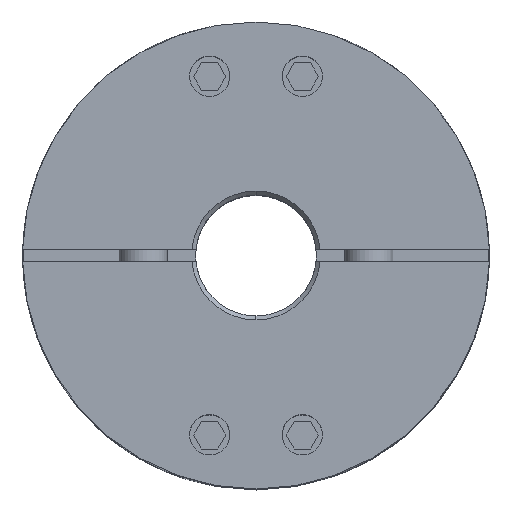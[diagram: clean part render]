
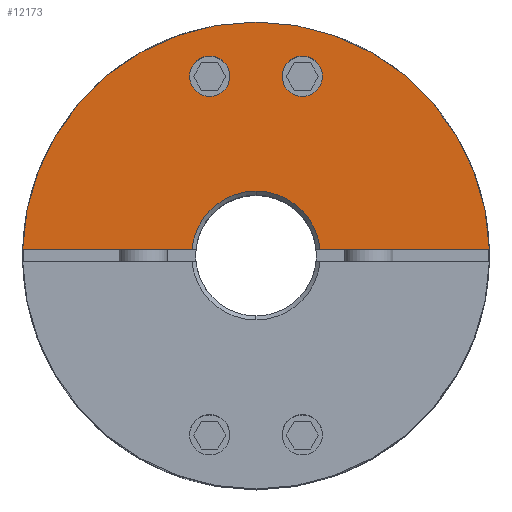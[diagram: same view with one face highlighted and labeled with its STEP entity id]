
A CAD part, top view. The second image highlights one B-rep face of the part: STEP entity #12173.
In plain terms, the highlighted planar face has unit normal (0, 0, 1).
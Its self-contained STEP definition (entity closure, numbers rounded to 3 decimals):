
#4733=CARTESIAN_POINT('',(5.759,24.767,35.75));
#4734=VERTEX_POINT('',#4733);
#4743=CARTESIAN_POINT('',(5.759,19.767,35.75));
#4744=VERTEX_POINT('',#4743);
#4745=CARTESIAN_POINT('',(5.759,22.267,35.75));
#4746=DIRECTION('',(0.0,0.0,-1.0));
#4747=DIRECTION('',(0.0,1.0,0.0));
#4748=AXIS2_PLACEMENT_3D('',#4745,#4746,#4747);
#4749=CIRCLE('',#4748,2.5);
#4750=EDGE_CURVE('',#4744,#4734,#4749,.T.);
#4775=CARTESIAN_POINT('',(-5.759,24.767,35.75));
#4776=VERTEX_POINT('',#4775);
#4785=CARTESIAN_POINT('',(-5.759,19.767,35.75));
#4786=VERTEX_POINT('',#4785);
#4787=CARTESIAN_POINT('',(-5.759,22.267,35.75));
#4788=DIRECTION('',(0.0,0.0,-1.0));
#4789=DIRECTION('',(0.0,1.0,0.0));
#4790=AXIS2_PLACEMENT_3D('',#4787,#4788,#4789);
#4791=CIRCLE('',#4790,2.5);
#4792=EDGE_CURVE('',#4786,#4776,#4791,.T.);
#5029=CARTESIAN_POINT('',(0.,29.0,35.75));
#5030=VERTEX_POINT('',#5029);
#5178=CARTESIAN_POINT('',(-28.99,0.75,35.75));
#5179=VERTEX_POINT('',#5178);
#5186=CARTESIAN_POINT('',(0.,0.0,35.75));
#5187=DIRECTION('',(0.0,0.0,-1.0));
#5188=DIRECTION('',(0.0,1.0,0.0));
#5189=AXIS2_PLACEMENT_3D('',#5186,#5187,#5188);
#5190=CIRCLE('',#5189,29.0);
#5191=EDGE_CURVE('',#5179,#5030,#5190,.T.);
#5363=CARTESIAN_POINT('',(0.,8.0,35.75));
#5364=VERTEX_POINT('',#5363);
#5380=CARTESIAN_POINT('',(7.965,0.75,35.75));
#5381=VERTEX_POINT('',#5380);
#5395=CARTESIAN_POINT('',(0.,0.0,35.75));
#5396=DIRECTION('',(0.0,0.0,1.0));
#5397=DIRECTION('',(0.0,1.0,0.0));
#5398=AXIS2_PLACEMENT_3D('',#5395,#5396,#5397);
#5399=CIRCLE('',#5398,8.0);
#5400=EDGE_CURVE('',#5381,#5364,#5399,.T.);
#11679=CARTESIAN_POINT('',(-7.965,0.75,35.75));
#11680=VERTEX_POINT('',#11679);
#11681=CARTESIAN_POINT('',(0.,0.0,35.75));
#11682=DIRECTION('',(0.0,0.0,1.0));
#11683=DIRECTION('',(0.0,1.0,0.0));
#11684=AXIS2_PLACEMENT_3D('',#11681,#11682,#11683);
#11685=CIRCLE('',#11684,8.0);
#11686=EDGE_CURVE('',#5364,#11680,#11685,.T.);
#11711=CARTESIAN_POINT('',(-28.99,0.75,35.75));
#11712=DIRECTION('',(1.0,0.0,0.0));
#11713=VECTOR('',#11712,21.026);
#11714=LINE('',#11711,#11713);
#11715=EDGE_CURVE('',#5179,#11680,#11714,.T.);
#11747=CARTESIAN_POINT('',(28.99,0.75,35.75));
#11748=VERTEX_POINT('',#11747);
#11755=CARTESIAN_POINT('',(7.965,0.75,35.75));
#11756=DIRECTION('',(1.0,0.0,0.0));
#11757=VECTOR('',#11756,21.026);
#11758=LINE('',#11755,#11757);
#11759=EDGE_CURVE('',#5381,#11748,#11758,.T.);
#11874=CARTESIAN_POINT('',(0.,0.0,35.75));
#11875=DIRECTION('',(0.0,0.0,-1.0));
#11876=DIRECTION('',(0.0,1.0,0.0));
#11877=AXIS2_PLACEMENT_3D('',#11874,#11875,#11876);
#11878=CIRCLE('',#11877,29.0);
#11879=EDGE_CURVE('',#5030,#11748,#11878,.T.);
#12112=CARTESIAN_POINT('',(-5.759,22.267,35.75));
#12113=DIRECTION('',(0.0,0.0,-1.0));
#12114=DIRECTION('',(0.0,1.0,0.0));
#12115=AXIS2_PLACEMENT_3D('',#12112,#12113,#12114);
#12116=CIRCLE('',#12115,2.5);
#12117=EDGE_CURVE('',#4776,#4786,#12116,.T.);
#12130=CARTESIAN_POINT('',(5.759,22.267,35.75));
#12131=DIRECTION('',(0.0,0.0,-1.0));
#12132=DIRECTION('',(0.0,1.0,0.0));
#12133=AXIS2_PLACEMENT_3D('',#12130,#12131,#12132);
#12134=CIRCLE('',#12133,2.5);
#12135=EDGE_CURVE('',#4734,#4744,#12134,.T.);
#12152=CARTESIAN_POINT('',(0.,2.636,35.75));
#12153=DIRECTION('',(0.0,0.0,1.0));
#12154=DIRECTION('',(0.0,1.0,0.0));
#12155=AXIS2_PLACEMENT_3D('',#12152,#12153,#12154);
#12156=PLANE('',#12155);
#12157=ORIENTED_EDGE('',*,*,#5400,.F.);
#12158=ORIENTED_EDGE('',*,*,#11759,.T.);
#12159=ORIENTED_EDGE('',*,*,#11879,.F.);
#12160=ORIENTED_EDGE('',*,*,#5191,.F.);
#12161=ORIENTED_EDGE('',*,*,#11715,.T.);
#12162=ORIENTED_EDGE('',*,*,#11686,.F.);
#12163=EDGE_LOOP('',(#12157,#12158,#12159,#12160,#12161,#12162));
#12164=FACE_OUTER_BOUND('',#12163,.T.);
#12165=ORIENTED_EDGE('',*,*,#12117,.T.);
#12166=ORIENTED_EDGE('',*,*,#4792,.T.);
#12167=EDGE_LOOP('',(#12165,#12166));
#12168=FACE_BOUND('',#12167,.T.);
#12169=ORIENTED_EDGE('',*,*,#12135,.T.);
#12170=ORIENTED_EDGE('',*,*,#4750,.T.);
#12171=EDGE_LOOP('',(#12169,#12170));
#12172=FACE_BOUND('',#12171,.T.);
#12173=ADVANCED_FACE('',(#12164,#12168,#12172),#12156,.T.);
